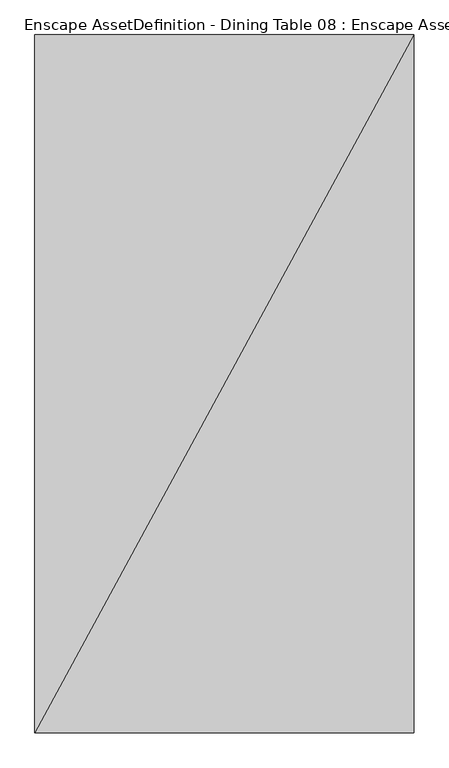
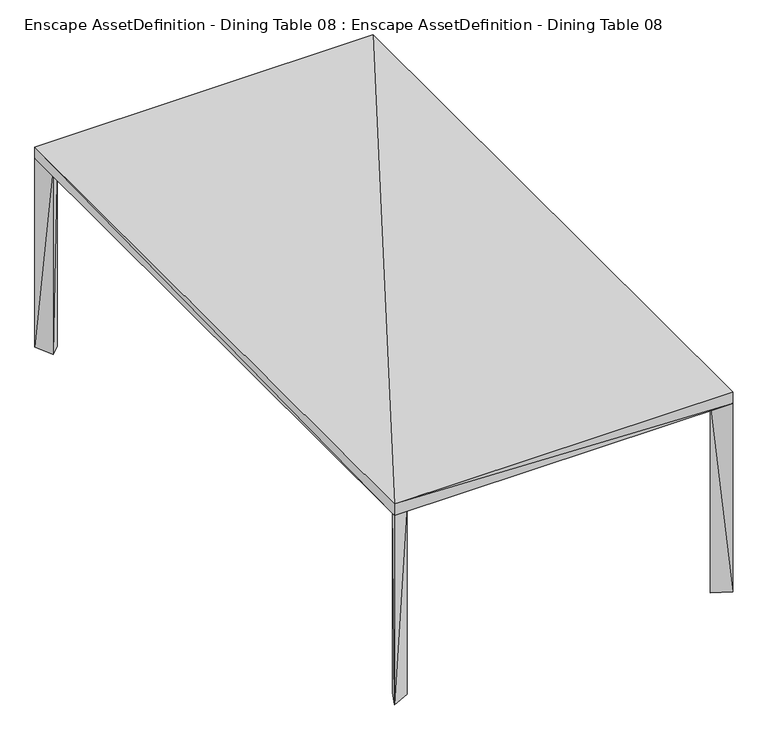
"""IFC4 building model written with IfcOpenShell, lengths in millimetres: geographic element geometry, Enscape AssetDefinition - Dining Table 08 : Enscape AssetDefinition - Dining Table 08."""

import ifcopenshell
import ifcopenshell.guid

model = None  # the IFC model being written
_history = None  # IfcOwnerHistory: only IFC2X3 demands one
_inside = {}  # id of a spatial element -> (the spatial element, [elements in it])
_under = {}  # id of a project, library or spatial element -> (it, [spatial elements below it])
_declared = {}  # id of a project -> (the project, [libraries it declares])
_typed = {}  # id of a type object -> (the type object, [elements of that type])
_made_of = {}  # id of a material, layer set ... -> (it, [elements and type objects made of it])


def new_model(schema):
    """Start an empty IFC model of exactly this schema.

    Asked for "IFC4X3", IfcOpenShell would pick the latest addendum, in which some entities
    have other attributes; the version numbers below select the first issue.
    IFC2X3 requires an IfcOwnerHistory on every rooted entity: one is made here for all.
    """
    global model, _history
    if schema == "IFC4X3":
        model = ifcopenshell.file(schema_version=(4, 3, 0, 0))
    else:
        model = ifcopenshell.file(schema=schema)
    _inside.clear()
    _under.clear()
    _declared.clear()
    _typed.clear()
    _made_of.clear()
    _history = None
    if model.schema == "IFC2X3":
        org = make("IfcOrganization", Name="unknown")
        user = make(
            "IfcPersonAndOrganization",
            ThePerson=make("IfcPerson", FamilyName="unknown"),
            TheOrganization=org,
        )
        app = make(
            "IfcApplication",
            ApplicationDeveloper=org,
            Version="unknown",
            ApplicationFullName="unknown",
            ApplicationIdentifier="unknown",
        )
        _history = make(
            "IfcOwnerHistory",
            OwningUser=user,
            OwningApplication=app,
            ChangeAction="ADDED",
            CreationDate=0,
        )
    return model


def make(cls, **values):
    """One entity of the class cls with the attributes given. An attribute that is None is left unset."""
    return model.create_entity(
        cls, **{name: value for name, value in values.items() if value is not None}
    )


def rooted(cls, **values):
    """An entity with a GlobalId (a new one), such as an element, a storey or a relation."""
    return make(cls, GlobalId=ifcopenshell.guid.new(), OwnerHistory=_history, **values)


def si_unit(unit_type, name, prefix=None):
    """IfcSIUnit, for example si_unit("LENGTHUNIT", "METRE", prefix="MILLI")."""
    return make("IfcSIUnit", UnitType=unit_type, Prefix=prefix, Name=name)


def assignment(units):
    """IfcUnitAssignment: the units of a project."""
    return None if units is None else make("IfcUnitAssignment", Units=units)


def point(xyz):
    """IfcCartesianPoint."""
    return None if xyz is None else make("IfcCartesianPoint", Coordinates=xyz)


def direction(xyz):
    """IfcDirection."""
    return None if xyz is None else make("IfcDirection", DirectionRatios=xyz)


def frame(location, z_axis=None, x_axis=None):
    """IfcAxis2Placement3D, a coordinate frame: its origin and axes. An axis left out is left unset."""
    return make(
        "IfcAxis2Placement3D",
        Location=point(location),
        Axis=direction(z_axis),
        RefDirection=direction(x_axis),
    )


def origin():
    """The frame at (0, 0, 0) with its axes left unset."""
    return frame((0.0, 0.0, 0.0))


def place(relative_to, where):
    """IfcLocalPlacement: puts the frame where relative to a parent placement (None: the world)."""
    return make(
        "IfcLocalPlacement", PlacementRelTo=relative_to, RelativePlacement=where
    )


def context(
    kind, dimensions, precision=None, world=None, true_north=None, identifier=None
):
    """IfcGeometricRepresentationContext, for example the 3D "Model" context."""
    return make(
        "IfcGeometricRepresentationContext",
        ContextIdentifier=identifier,
        ContextType=kind,
        CoordinateSpaceDimension=dimensions,
        Precision=precision,
        WorldCoordinateSystem=world,
        TrueNorth=true_north,
    )


def project(units=None, contexts=None):
    """IfcProject with its units and contexts."""
    return rooted(
        "IfcProject",
        Name="project",
        RepresentationContexts=contexts,
        UnitsInContext=assignment(units),
    )


def spatial(cls, under=None, at=None, **own):
    """A site, building, storey or space (cls), placed at a placement, below another one or the project."""
    s = rooted(cls, ObjectPlacement=at, **own)
    if under is not None:
        _under.setdefault(under.id(), (under, []))[1].append(s)
    return s


def faces_of(points, faces, orient=None, outer=None):
    """IfcFace entities. A face is a list of loops; a loop is a list of indices into points, from 0.

    orient and outer hold one flag for each loop. By default every Orientation is true, the
    first loop of a face is its IfcFaceOuterBound and the others are IfcFaceBound.
    """
    made = []
    for i, loops in enumerate(faces):
        bounds = []
        for j, loop in enumerate(loops):
            is_outer = j == 0 if outer is None else outer[i][j]
            bounds.append(
                make(
                    "IfcFaceOuterBound" if is_outer else "IfcFaceBound",
                    Bound=make("IfcPolyLoop", Polygon=[points[k] for k in loop]),
                    Orientation=True if orient is None else orient[i][j],
                )
            )
        made.append(make("IfcFace", Bounds=bounds))
    return made


def faceted_brep(points, faces, orient=None, outer=None, voids=None):
    """IfcFacetedBrep: a solid bounded by flat faces; with voids (closed shells), ...WithVoids."""
    shared = [point(p) for p in points]
    hull = make("IfcClosedShell", CfsFaces=faces_of(shared, faces, orient, outer))
    if voids is None:
        return make("IfcFacetedBrep", Outer=hull)
    return make(
        "IfcFacetedBrepWithVoids",
        Outer=hull,
        Voids=[
            make(cls, CfsFaces=faces_of(shared, fs, o, b)) for cls, fs, o, b in voids
        ],
    )


def shape(context_of_items, identifier, shape_type, items):
    """IfcShapeRepresentation: the items that make up one representation, for example the "Body"."""
    return make(
        "IfcShapeRepresentation",
        ContextOfItems=context_of_items,
        RepresentationIdentifier=identifier,
        RepresentationType=shape_type,
        Items=items,
    )


def source(mapping_origin, context_of_items, identifier, shape_type, items):
    """IfcRepresentationMap: a shape defined once, which mapped items show again and again."""
    return make(
        "IfcRepresentationMap",
        MappingOrigin=mapping_origin,
        MappedRepresentation=shape(context_of_items, identifier, shape_type, items),
    )


def transform(
    local_origin,
    x_axis=None,
    y_axis=None,
    z_axis=None,
    scale=None,
    scale2=None,
    scale3=None,
    uniform=True,
):
    """IfcCartesianTransformationOperator3D, or its non-uniform kind. x_axis, y_axis, z_axis: its Axis1, 2, 3."""
    if uniform:
        return make(
            "IfcCartesianTransformationOperator3D",
            Axis1=direction(x_axis),
            Axis2=direction(y_axis),
            LocalOrigin=point(local_origin),
            Scale=scale,
            Axis3=direction(z_axis),
        )
    return make(
        "IfcCartesianTransformationOperator3DnonUniform",
        Axis1=direction(x_axis),
        Axis2=direction(y_axis),
        LocalOrigin=point(local_origin),
        Scale=scale,
        Axis3=direction(z_axis),
        Scale2=scale2,
        Scale3=scale3,
    )


def mapped(mapping_source, mapping_target):
    """IfcMappedItem: shows the shape of a source again, moved by a transform."""
    return make(
        "IfcMappedItem", MappingSource=mapping_source, MappingTarget=mapping_target
    )


def made_of(thing, what):
    """Note that an element or type object is made of a material, layer set ...; save() writes the relation."""
    if what is not None:
        _made_of.setdefault(what.id(), (what, []))[1].append(thing)
    return thing


def element(
    cls,
    number,
    at=None,
    inside=None,
    cuts=None,
    type_object=None,
    material=None,
    context=None,
    identifier="Body",
    shape_type=None,
    held_by="IfcProductDefinitionShape",
    body=None,
    shapes=None,
    **own,
):
    """One element of the class cls, such as IfcWall. Its Tag is "e" and its number.

    at: its placement. inside: the storey or other place that contains it. cuts: it is an
    opening in that element (IfcRelVoidsElement). A single representation is given by context,
    identifier, shape_type and body (its items); several are given by shapes. held_by: the class
    of the entity that holds the representations. save() writes the other relations.
    """
    e = rooted(cls, Tag="e%d" % number, ObjectPlacement=at, **own)
    if body is not None:
        shapes = [shape(context, identifier, shape_type, body)]
    if shapes is not None:
        e.Representation = make(held_by, Representations=shapes)
    if inside is not None:
        _inside.setdefault(inside.id(), (inside, []))[1].append(e)
    if cuts is not None:
        rooted(
            "IfcRelVoidsElement", RelatingBuildingElement=cuts, RelatedOpeningElement=e
        )
    if type_object is not None:
        _typed.setdefault(type_object.id(), (type_object, []))[1].append(e)
    return made_of(e, material)


def aggregate(whole, parts):
    """IfcRelAggregates: a whole, such as a stair, and the parts it consists of."""
    return rooted("IfcRelAggregates", RelatingObject=whole, RelatedObjects=parts)


def save(model, path):
    """Write the relations noted so far, then the file.

    IfcRelAggregates (storeys below a building ...), IfcRelContainedInSpatialStructure (elements
    in a storey), IfcRelDefinesByType, IfcRelAssociatesMaterial and IfcRelDeclares: one each for
    every whole, place, type object, material and project.
    """
    for whole, parts in _under.values():
        aggregate(whole, parts)
    for where, things in _inside.values():
        rooted(
            "IfcRelContainedInSpatialStructure",
            RelatedElements=things,
            RelatingStructure=where,
        )
    for kind, things in _typed.values():
        rooted("IfcRelDefinesByType", RelatedObjects=things, RelatingType=kind)
    for what, things in _made_of.values():
        rooted("IfcRelAssociatesMaterial", RelatedObjects=things, RelatingMaterial=what)
    for by, libraries in _declared.values():
        rooted("IfcRelDeclares", RelatingContext=by, RelatedDefinitions=libraries)
    model.write(path)


def enscape_assetdefinition_dining_table_08_enscape_2c41302c(model_context):
    return source(origin(), model_context, "Body", "Brep", [
        faceted_brep([(-594.992578, 1094.9938297, 748.3351231), (-594.992578, -1094.9940681, 748.334825), (594.992578, 1094.9938297, 748.3351231), (-594.992578, -1094.9940681, 705.8957219), (594.992578, -1094.9940681, 705.8957219), (594.992578, -1094.9940681, 748.334825), (594.992578, 1094.9938297, 705.8960795), (-594.992578, 1094.9938297, 705.8960795), (-566.1295056, -1033.4219933, 704.8037648), (-594.992578, -1094.9939489, 0.6858218), (-533.4204435, -1066.1309958, 704.8037648), (-566.1255121, 1033.4496498, 704.8040628), (-533.4474444, 1066.1267042, 704.8040628), (-594.992578, 1094.9939489, 4.3851915), (-531.9104195, 1031.9116116, 704.8050761), (-566.1255121, 1033.449769, 4.3851817), (533.4474444, 1066.1267042, 704.8040628), (-533.4474444, 1066.1268234, 4.3851817), (594.992578, 1094.9939489, 4.3851915), (531.9104195, 1031.9126844, 704.8050761), (566.1255121, 1033.4496498, 704.8040628), (533.4474444, 1066.1268234, 4.3851817), (566.1255121, 1033.449769, 4.3851817), (566.1255121, -1033.4489346, 704.8037648), (531.9104195, -1031.9129229, 704.8047185), (-531.9104195, -1031.9129229, 704.8047185), (533.4474444, -1066.1269426, 704.8037648), (-533.4204435, -1066.1308765, 0.6858318), (-566.1295056, -1033.4217548, 0.6858318), (533.4474444, -1066.1268234, 4.3848418), (566.1255121, -1033.4486961, 4.3848418), (594.992578, -1094.9939489, 4.3848315)], [[[0, 1, 2]], [[3, 4, 1]], [[1, 0, 3]], [[2, 1, 5]], [[1, 4, 5]], [[2, 5, 6]], [[6, 0, 2]], [[7, 0, 6]], [[3, 0, 7]], [[7, 8, 3]], [[3, 8, 9]], [[10, 4, 3]], [[3, 9, 10]], [[8, 7, 11]], [[6, 12, 7]], [[13, 11, 7]], [[12, 13, 7]], [[11, 14, 8]], [[11, 12, 14]], [[15, 11, 13]], [[15, 12, 11]], [[12, 6, 16]], [[17, 13, 12]], [[17, 12, 15]], [[16, 14, 12]], [[17, 15, 13]], [[6, 18, 16]], [[19, 16, 20]], [[19, 14, 16]], [[21, 22, 16]], [[16, 18, 21]], [[16, 22, 20]], [[22, 18, 20]], [[21, 18, 22]], [[20, 18, 6]], [[6, 23, 20]], [[23, 6, 4]], [[6, 5, 4]], [[20, 23, 19]], [[24, 14, 19]], [[19, 23, 24]], [[25, 14, 24]], [[8, 14, 25]], [[25, 24, 10]], [[23, 26, 24]], [[10, 24, 26]], [[25, 10, 8]], [[10, 27, 8]], [[9, 8, 28]], [[8, 27, 28]], [[4, 10, 26]], [[10, 9, 27]], [[29, 26, 30]], [[29, 31, 26]], [[30, 26, 23]], [[26, 31, 4]], [[30, 23, 31]], [[29, 30, 31]], [[31, 23, 4]], [[27, 9, 28]]]),
    ])


if __name__ == "__main__":
    model = new_model("IFC4")
    model_context = context("Model", 3, world=origin())
    ifc_project = project(units=[si_unit("LENGTHUNIT", "METRE", prefix="MILLI")], contexts=[model_context])
    site = spatial("IfcSite", under=ifc_project)
    building = spatial("IfcBuilding", under=site)
    placement = place(None, origin())
    enscape_assetdefinition_dining_table_08_enscape_shape = enscape_assetdefinition_dining_table_08_enscape_2c41302c(model_context)
    element("IfcGeographicElement", 1, ObjectType="Enscape AssetDefinition - Dining Table 08 : Enscape AssetDefinition - Dining Table 08", at=placement, inside=building, context=model_context, shape_type="MappedRepresentation", body=[
        mapped(enscape_assetdefinition_dining_table_08_enscape_shape, transform((0.0, 0.0, 0.0), x_axis=(1.0, 0.0, 0.0), y_axis=(0.0, 1.0, 0.0), z_axis=(0.0, 0.0, 1.0))),
    ])
    save(model, "model.ifc")
